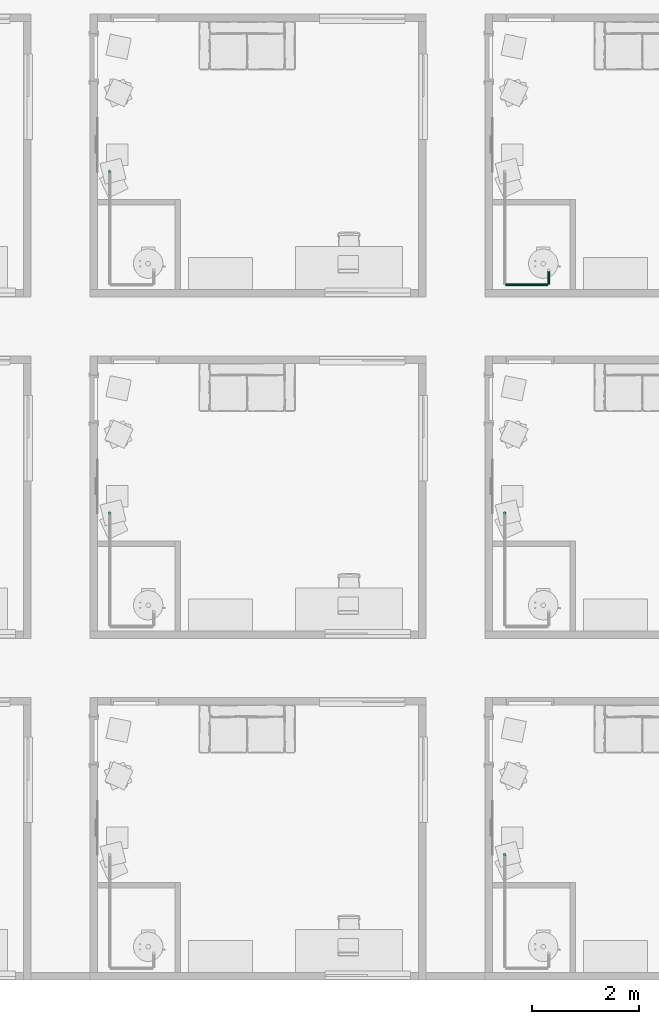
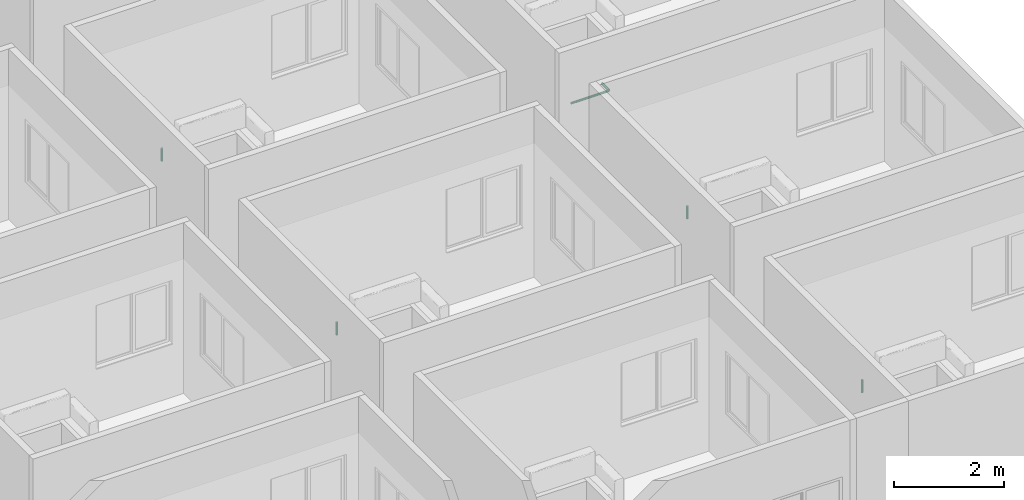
# One storey, part 50 of 71: 6 pipe segments.
"""IFC4 building model written with IfcOpenShell, lengths in centimetres."""

from ifc_helpers import new_model, entity, si_unit, converted_unit, derived_unit, direction, frame, origin, place, context, subcontext, project, spatial, arc, indexed_curve, outline, extrude, type_object, element, save


model = new_model("IFC4")

# Units and contexts
model_context = context("Model", 3, precision=0.001, world=origin(), true_north=direction((6.123233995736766e-17, 1.0)))
body_context = subcontext(model_context, "Body", "Model", "MODEL_VIEW")
ifc_project = project(units=[si_unit("LENGTHUNIT", "METRE", prefix="CENTI"), si_unit("AREAUNIT", "SQUARE_METRE"), si_unit("VOLUMEUNIT", "CUBIC_METRE"), derived_unit("THERMALTRANSMITTANCEUNIT", [(si_unit("MASSUNIT", "GRAM", prefix="KILO"), 1), (si_unit("THERMODYNAMICTEMPERATUREUNIT", "KELVIN"), -1), (si_unit("TIMEUNIT", "SECOND"), -3)]), converted_unit("PLANEANGLEUNIT", "DEGREE", entity("IfcPlaneAngleMeasure", 0.017453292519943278), si_unit("PLANEANGLEUNIT", "RADIAN"), dimensions=[0, 0, 0, 0, 0, 0, 0]), derived_unit("MASSDENSITYUNIT", [(si_unit("MASSUNIT", "GRAM", prefix="KILO"), 1), (si_unit("LENGTHUNIT", "METRE"), -3)]), derived_unit("VAPORPERMEABILITYUNIT", [(si_unit("LENGTHUNIT", "METRE"), -1), (si_unit("TIMEUNIT", "SECOND"), 1)]), derived_unit("USERDEFINED", [(si_unit("MASSUNIT", "GRAM", prefix="KILO"), 1), (si_unit("TIMEUNIT", "SECOND"), -3), (si_unit("LENGTHUNIT", "METRE"), 3), (si_unit("ELECTRICCURRENTUNIT", "AMPERE"), -2)]), derived_unit("SPECIFICHEATCAPACITYUNIT", [(si_unit("THERMODYNAMICTEMPERATUREUNIT", "KELVIN"), -1), (si_unit("LENGTHUNIT", "METRE"), 2), (si_unit("TIMEUNIT", "SECOND"), -2)]), derived_unit("THERMALCONDUCTANCEUNIT", [(si_unit("MASSUNIT", "GRAM", prefix="KILO"), 1), (si_unit("THERMODYNAMICTEMPERATUREUNIT", "KELVIN"), -1), (si_unit("TIMEUNIT", "SECOND"), -3), (si_unit("LENGTHUNIT", "METRE"), 1)]), si_unit("PRESSUREUNIT", "PASCAL"), derived_unit("MODULUSOFELASTICITYUNIT", [(si_unit("MASSUNIT", "GRAM", prefix="KILO"), 1), (si_unit("LENGTHUNIT", "METRE"), -1), (si_unit("TIMEUNIT", "SECOND"), -2)]), derived_unit("THERMALEXPANSIONCOEFFICIENTUNIT", [(si_unit("THERMODYNAMICTEMPERATUREUNIT", "KELVIN"), -1)])], contexts=[model_context])

# Site, building, storey
site_placement = place(None, origin())
site = spatial("IfcSite", under=ifc_project, at=site_placement, Name="Default", CompositionType="ELEMENT")
building_placement = place(site_placement, origin())
building = spatial("IfcBuilding", under=site, at=building_placement, Name="IDS Escape Game Building", CompositionType="ELEMENT")
storey_placement = place(building_placement, frame((0.0, 0.0, 1200.0)))
storey = spatial("IfcBuildingStorey", under=building, at=storey_placement, Name="03_Third Floor", CompositionType="ELEMENT", Elevation=1200.0)

# Pipe segments
pipe_segment_type = type_object("IfcPipeSegmentType", Name="Pipe Types:Piping Aluminum", PredefinedType="NOTDEFINED")
pipe_segment_1_placement = place(storey_placement, origin())
element("IfcPipeSegment", 1, at=pipe_segment_1_placement, inside=storey, type_object=pipe_segment_type, Name="Pipe Types:Piping Aluminum", ObjectType="Pipe Types:Piping Aluminum", PredefinedType="NOTDEFINED", context=body_context, shape_type="SweptSolid", body=[
    extrude(outline(indexed_curve([(2.4130000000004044, -2.7071678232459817e-14), (1.7062486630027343, 1.7062486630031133), (0.0, 2.412999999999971), (-1.7062486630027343, 1.7062486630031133), (-2.4130000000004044, 0.0), (-1.7062486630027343, -1.7062486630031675), (0.0, -2.413000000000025), (1.7062486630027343, -1.7062486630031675)], segments=[arc(1, 2, 3), arc(3, 4, 5), arc(5, 6, 7), arc(7, 8, 1)], self_intersect=False)), frame((4458.046716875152, 233.26482792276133, 244.09999999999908), z_axis=(0.0, 0.0, 1.0), x_axis=(-1.0, 0.0, 0.0)), (0.0, 0.0, 1.0), 27.90000000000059),
])
pipe_segment_2_placement = place(storey_placement, origin())
element("IfcPipeSegment", 2, at=pipe_segment_2_placement, inside=storey, type_object=pipe_segment_type, Name="Pipe Types:Piping Aluminum", ObjectType="Pipe Types:Piping Aluminum", PredefinedType="NOTDEFINED", context=body_context, shape_type="SweptSolid", body=[
    extrude(outline(indexed_curve([(2.412999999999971, 0.0), (1.7062486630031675, 1.7062486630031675), (0.0, 2.412999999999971), (-1.7062486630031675, 1.7062486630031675), (-2.412999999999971, 0.0), (-1.7062486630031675, -1.7062486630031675), (0.0, -2.412999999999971), (1.7062486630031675, -1.7062486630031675)], segments=[arc(1, 2, 3), arc(3, 4, 5), arc(5, 6, 7), arc(7, 8, 1)], self_intersect=False)), frame((3720.046716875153, 871.2648279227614, 244.09999999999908), z_axis=(0.0, 0.0, 1.0), x_axis=(-1.0, 0.0, 0.0)), (0.0, 0.0, 1.0), 27.90000000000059),
])
pipe_segment_3_placement = place(storey_placement, origin())
element("IfcPipeSegment", 3, at=pipe_segment_3_placement, inside=storey, type_object=pipe_segment_type, Name="Pipe Types:Piping Aluminum", ObjectType="Pipe Types:Piping Aluminum", PredefinedType="NOTDEFINED", context=body_context, shape_type="SweptSolid", body=[
    extrude(outline(indexed_curve([(2.4130000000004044, 0.0), (1.7062486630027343, 1.7062486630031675), (0.0, 2.412999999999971), (-1.7062486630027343, 1.7062486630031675), (-2.4130000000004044, 0.0), (-1.7062486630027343, -1.7062486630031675), (0.0, -2.412999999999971), (1.7062486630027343, -1.7062486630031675)], segments=[arc(1, 2, 3), arc(3, 4, 5), arc(5, 6, 7), arc(7, 8, 1)], self_intersect=False)), frame((4458.046716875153, 871.2648279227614, 244.09999999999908), z_axis=(0.0, 0.0, 1.0), x_axis=(-1.0, 0.0, 0.0)), (0.0, 0.0, 1.0), 27.90000000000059),
])
pipe_segment_4_placement = place(storey_placement, origin())
element("IfcPipeSegment", 4, at=pipe_segment_4_placement, inside=storey, type_object=pipe_segment_type, Name="Pipe Types:Piping Aluminum", ObjectType="Pipe Types:Piping Aluminum", PredefinedType="NOTDEFINED", context=body_context, shape_type="SweptSolid", body=[
    extrude(outline(indexed_curve([(2.412999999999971, 0.0), (1.7062486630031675, 1.7062486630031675), (0.0, 2.412999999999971), (-1.7062486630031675, 1.7062486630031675), (-2.412999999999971, 0.0), (-1.7062486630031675, -1.7062486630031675), (0.0, -2.412999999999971), (1.7062486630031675, -1.7062486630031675)], segments=[arc(1, 2, 3), arc(3, 4, 5), arc(5, 6, 7), arc(7, 8, 1)], self_intersect=False)), frame((3720.0467168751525, 1509.2648279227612, 244.09999999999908), z_axis=(0.0, 0.0, 1.0), x_axis=(-1.0, 0.0, 0.0)), (0.0, 0.0, 1.0), 27.90000000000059),
])
pipe_segment_5_placement = place(storey_placement, origin())
element("IfcPipeSegment", 5, at=pipe_segment_5_placement, inside=storey, type_object=pipe_segment_type, Name="Pipe Types:Piping Aluminum", ObjectType="Pipe Types:Piping Aluminum", PredefinedType="NOTDEFINED", context=body_context, shape_type="SweptSolid", body=[
    extrude(outline(indexed_curve([(2.412999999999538, -2.165734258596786e-13), (1.7062486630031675, 1.7062486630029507), (4.331468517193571e-13, 2.4130000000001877), (-1.706248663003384, 1.7062486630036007), (-2.4130000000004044, -2.165734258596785e-13), (-1.7062486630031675, -1.706248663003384), (4.3314685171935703e-13, -2.4129999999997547), (1.7062486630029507, -1.7062486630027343)], segments=[arc(1, 2, 3), arc(3, 4, 5), arc(5, 6, 7), arc(7, 8, 1)], self_intersect=False)), frame((4459.146716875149, 1297.2648279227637, 242.0), z_axis=(1.0, 0.0, 0.0), x_axis=(0.0, 1.0, 0.0)), (0.0, 0.0, 1.0), 79.90328312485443),
])
pipe_segment_6_placement = place(storey_placement, origin())
element("IfcPipeSegment", 6, at=pipe_segment_6_placement, inside=storey, type_object=pipe_segment_type, Name="Pipe Types:Piping Aluminum", ObjectType="Pipe Types:Piping Aluminum", PredefinedType="NOTDEFINED", context=body_context, shape_type="SweptSolid", body=[
    extrude(outline(indexed_curve([(2.412999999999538, 0.0), (1.7062486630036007, 1.706248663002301), (1.7325874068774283e-12, 2.412999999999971), (-1.7062486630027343, 1.7062486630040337), (-2.413000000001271, 0.0), (-1.7062486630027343, -1.7062486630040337), (1.7325874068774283e-12, -2.412999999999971), (1.7062486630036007, -1.706248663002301)], segments=[arc(1, 2, 3), arc(3, 4, 5), arc(5, 6, 7), arc(7, 8, 1)], self_intersect=False)), frame((4540.150000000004, 1298.3648279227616, 242.0), z_axis=(0.0, 1.0, 0.0), x_axis=(-1.0, 0.0, 0.0)), (0.0, 0.0, 1.0), 25.43517207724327),
])

save(model, "model.ifc")
